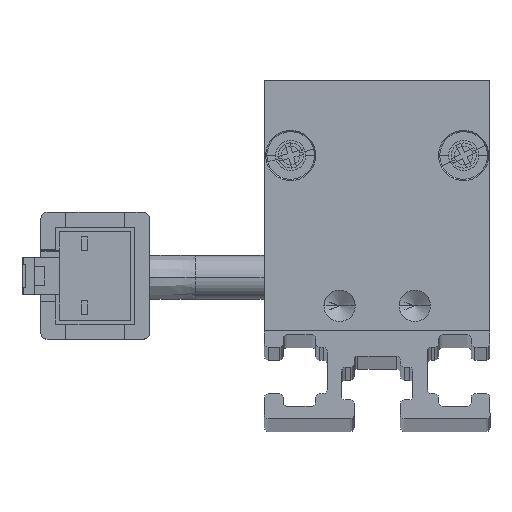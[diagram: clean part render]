
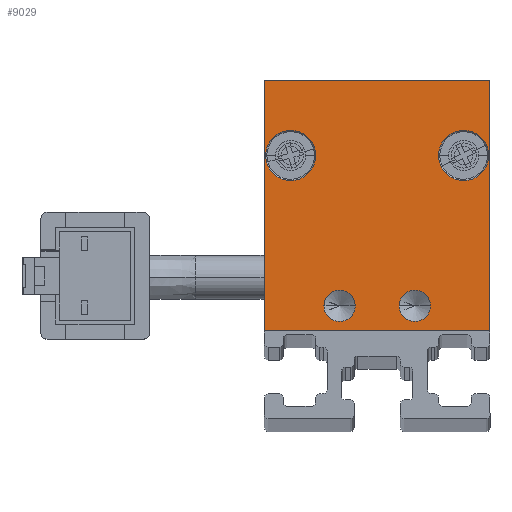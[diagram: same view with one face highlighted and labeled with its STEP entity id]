
A CAD part, top view. The second image highlights one B-rep face of the part: STEP entity #9029.
In plain terms, the highlighted planar face has unit normal (0, 0, 1) as drawn and (0, 0, -1) by its records, which use the part's own axes.
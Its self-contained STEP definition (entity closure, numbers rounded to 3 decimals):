
#47 = CARTESIAN_POINT ( 'NONE',  ( 3., 2., -2.5 ) ) ;
#105 = DIRECTION ( 'NONE',  ( 0., 0., -1. ) ) ;
#112 = ORIENTED_EDGE ( 'NONE', *, *, #8596, .F. ) ;
#113 = FACE_BOUND ( 'NONE', #11079, .T. ) ;
#223 = DIRECTION ( 'NONE',  ( -1., 0., 0. ) ) ;
#490 = VECTOR ( 'NONE', #5823, 1000. ) ;
#531 = CARTESIAN_POINT ( 'NONE',  ( 6.9, 14., -2.5 ) ) ;
#538 = DIRECTION ( 'NONE',  ( -1., 0., 0. ) ) ;
#555 = CARTESIAN_POINT ( 'NONE',  ( 4.9, 14., -2.5 ) ) ;
#591 = ORIENTED_EDGE ( 'NONE', *, *, #9021, .F. ) ;
#658 = CARTESIAN_POINT ( 'NONE',  ( -3., 2., -2.5 ) ) ;
#815 = CARTESIAN_POINT ( 'NONE',  ( 3., 2., -2.5 ) ) ;
#834 = DIRECTION ( 'NONE',  ( 0., 1., 0. ) ) ;
#1004 = DIRECTION ( 'NONE',  ( -1., 0., 0. ) ) ;
#1025 = DIRECTION ( 'NONE',  ( 0., 0., -1. ) ) ;
#1041 = CARTESIAN_POINT ( 'NONE',  ( -9., 0., -2.5 ) ) ;
#1191 = DIRECTION ( 'NONE',  ( 0., -1., 0. ) ) ;
#1239 = CARTESIAN_POINT ( 'NONE',  ( 6.9, 14., -2.5 ) ) ;
#1492 = CARTESIAN_POINT ( 'NONE',  ( 8.9, 14., -2.5 ) ) ;
#1589 = EDGE_CURVE ( 'NONE', #3478, #9411, #6764, .T. ) ;
#1956 = EDGE_LOOP ( 'NONE', ( #9576, #591 ) ) ;
#1976 = EDGE_CURVE ( 'NONE', #8108, #11464, #2312, .T. ) ;
#2014 = EDGE_LOOP ( 'NONE', ( #6168, #3201 ) ) ;
#2021 = CARTESIAN_POINT ( 'NONE',  ( 9., 0., -2.5 ) ) ;
#2069 = FACE_BOUND ( 'NONE', #1956, .T. ) ;
#2274 = EDGE_CURVE ( 'NONE', #9508, #7532, #12410, .T. ) ;
#2283 = AXIS2_PLACEMENT_3D ( 'NONE', #11049, #7355, #538 ) ;
#2312 = CIRCLE ( 'NONE', #11361, 2. ) ;
#2530 = AXIS2_PLACEMENT_3D ( 'NONE', #658, #3507, #11092 ) ;
#2657 = EDGE_CURVE ( 'NONE', #3238, #10145, #12420, .T. ) ;
#2942 = CARTESIAN_POINT ( 'NONE',  ( -4.9, 14., -2.5 ) ) ;
#3082 = ORIENTED_EDGE ( 'NONE', *, *, #1976, .F. ) ;
#3201 = ORIENTED_EDGE ( 'NONE', *, *, #2657, .F. ) ;
#3208 = CARTESIAN_POINT ( 'NONE',  ( 9., 20., -2.5 ) ) ;
#3238 = VERTEX_POINT ( 'NONE', #8252 ) ;
#3310 = ORIENTED_EDGE ( 'NONE', *, *, #9265, .F. ) ;
#3478 = VERTEX_POINT ( 'NONE', #3208 ) ;
#3495 = CIRCLE ( 'NONE', #10722, 2. ) ;
#3507 = DIRECTION ( 'NONE',  ( 0., 0., -1. ) ) ;
#3709 = CIRCLE ( 'NONE', #2283, 2. ) ;
#3761 = AXIS2_PLACEMENT_3D ( 'NONE', #6008, #1025, #11842 ) ;
#3856 = AXIS2_PLACEMENT_3D ( 'NONE', #9744, #3924, #8853 ) ;
#3924 = DIRECTION ( 'NONE',  ( 0., 0., 1. ) ) ;
#3962 = EDGE_CURVE ( 'NONE', #9411, #6103, #8444, .T. ) ;
#4035 = EDGE_LOOP ( 'NONE', ( #5226, #112 ) ) ;
#4096 = FACE_OUTER_BOUND ( 'NONE', #4520, .T. ) ;
#4204 = CARTESIAN_POINT ( 'NONE',  ( -8.9, 14., -2.5 ) ) ;
#4447 = VECTOR ( 'NONE', #6796, 1000. ) ;
#4464 = DIRECTION ( 'NONE',  ( -1., 0., 0. ) ) ;
#4520 = EDGE_LOOP ( 'NONE', ( #9396, #6409, #5331, #3310 ) ) ;
#4553 = VERTEX_POINT ( 'NONE', #2021 ) ;
#4671 = DIRECTION ( 'NONE',  ( 0., 0., -1. ) ) ;
#4730 = DIRECTION ( 'NONE',  ( -1., 0., 0. ) ) ;
#4920 = EDGE_CURVE ( 'NONE', #10145, #3238, #11838, .T. ) ;
#4932 = CARTESIAN_POINT ( 'NONE',  ( -9., 20., -2.5 ) ) ;
#5167 = ORIENTED_EDGE ( 'NONE', *, *, #11113, .F. ) ;
#5226 = ORIENTED_EDGE ( 'NONE', *, *, #2274, .F. ) ;
#5286 = VECTOR ( 'NONE', #834, 1000. ) ;
#5331 = ORIENTED_EDGE ( 'NONE', *, *, #7437, .F. ) ;
#5809 = DIRECTION ( 'NONE',  ( 0., 0., -1. ) ) ;
#5823 = DIRECTION ( 'NONE',  ( -1., 0., 0. ) ) ;
#5933 = FACE_BOUND ( 'NONE', #4035, .T. ) ;
#5993 = PLANE ( 'NONE',  #3856 ) ;
#6008 = CARTESIAN_POINT ( 'NONE',  ( -3., 2., -2.5 ) ) ;
#6103 = VERTEX_POINT ( 'NONE', #12376 ) ;
#6168 = ORIENTED_EDGE ( 'NONE', *, *, #4920, .F. ) ;
#6190 = VECTOR ( 'NONE', #1191, 1000. ) ;
#6409 = ORIENTED_EDGE ( 'NONE', *, *, #1589, .F. ) ;
#6581 = CARTESIAN_POINT ( 'NONE',  ( 9., 20., -2.5 ) ) ;
#6764 = LINE ( 'NONE', #4932, #490 ) ;
#6796 = DIRECTION ( 'NONE',  ( 1., 0., 0. ) ) ;
#7054 = CARTESIAN_POINT ( 'NONE',  ( -9., 20., -2.5 ) ) ;
#7171 = CARTESIAN_POINT ( 'NONE',  ( -1.75, 2., -2.5 ) ) ;
#7355 = DIRECTION ( 'NONE',  ( 0., 0., -1. ) ) ;
#7437 = EDGE_CURVE ( 'NONE', #4553, #3478, #7510, .T. ) ;
#7510 = LINE ( 'NONE', #6581, #5286 ) ;
#7532 = VERTEX_POINT ( 'NONE', #7171 ) ;
#7591 = EDGE_CURVE ( 'NONE', #10762, #11190, #3495, .T. ) ;
#7657 = AXIS2_PLACEMENT_3D ( 'NONE', #1239, #7985, #9802 ) ;
#7805 = FACE_BOUND ( 'NONE', #2014, .T. ) ;
#7985 = DIRECTION ( 'NONE',  ( 0., 0., -1. ) ) ;
#8108 = VERTEX_POINT ( 'NONE', #2942 ) ;
#8170 = AXIS2_PLACEMENT_3D ( 'NONE', #47, #5809, #1004 ) ;
#8252 = CARTESIAN_POINT ( 'NONE',  ( 4.25, 2., -2.5 ) ) ;
#8444 = LINE ( 'NONE', #7054, #6190 ) ;
#8596 = EDGE_CURVE ( 'NONE', #7532, #9508, #9221, .T. ) ;
#8731 = CARTESIAN_POINT ( 'NONE',  ( -6.9, 14., -2.5 ) ) ;
#8853 = DIRECTION ( 'NONE',  ( 1., 0., 0. ) ) ;
#9021 = EDGE_CURVE ( 'NONE', #11190, #10762, #10456, .T. ) ;
#9029 = ADVANCED_FACE ( 'NONE', ( #2069, #113, #7805, #5933, #4096 ), #5993, .F. ) ;
#9194 = CARTESIAN_POINT ( 'NONE',  ( -4.25, 2., -2.5 ) ) ;
#9221 = CIRCLE ( 'NONE', #3761, 1.25 ) ;
#9265 = EDGE_CURVE ( 'NONE', #6103, #4553, #9596, .T. ) ;
#9396 = ORIENTED_EDGE ( 'NONE', *, *, #3962, .F. ) ;
#9411 = VERTEX_POINT ( 'NONE', #11733 ) ;
#9508 = VERTEX_POINT ( 'NONE', #9194 ) ;
#9576 = ORIENTED_EDGE ( 'NONE', *, *, #7591, .F. ) ;
#9596 = LINE ( 'NONE', #1041, #4447 ) ;
#9744 = CARTESIAN_POINT ( 'NONE',  ( 0., 0., -2.5 ) ) ;
#9802 = DIRECTION ( 'NONE',  ( -1., 0., 0. ) ) ;
#10145 = VERTEX_POINT ( 'NONE', #12276 ) ;
#10456 = CIRCLE ( 'NONE', #7657, 2. ) ;
#10722 = AXIS2_PLACEMENT_3D ( 'NONE', #531, #11236, #4464 ) ;
#10762 = VERTEX_POINT ( 'NONE', #555 ) ;
#11011 = AXIS2_PLACEMENT_3D ( 'NONE', #815, #4671, #223 ) ;
#11049 = CARTESIAN_POINT ( 'NONE',  ( -6.9, 14., -2.5 ) ) ;
#11079 = EDGE_LOOP ( 'NONE', ( #5167, #3082 ) ) ;
#11092 = DIRECTION ( 'NONE',  ( -1., 0., 0. ) ) ;
#11113 = EDGE_CURVE ( 'NONE', #11464, #8108, #3709, .T. ) ;
#11190 = VERTEX_POINT ( 'NONE', #1492 ) ;
#11236 = DIRECTION ( 'NONE',  ( 0., 0., -1. ) ) ;
#11361 = AXIS2_PLACEMENT_3D ( 'NONE', #8731, #105, #4730 ) ;
#11464 = VERTEX_POINT ( 'NONE', #4204 ) ;
#11733 = CARTESIAN_POINT ( 'NONE',  ( -9., 20., -2.5 ) ) ;
#11838 = CIRCLE ( 'NONE', #11011, 1.25 ) ;
#11842 = DIRECTION ( 'NONE',  ( -1., 0., 0. ) ) ;
#12276 = CARTESIAN_POINT ( 'NONE',  ( 1.75, 2., -2.5 ) ) ;
#12376 = CARTESIAN_POINT ( 'NONE',  ( -9., 0., -2.5 ) ) ;
#12410 = CIRCLE ( 'NONE', #2530, 1.25 ) ;
#12420 = CIRCLE ( 'NONE', #8170, 1.25 ) ;
